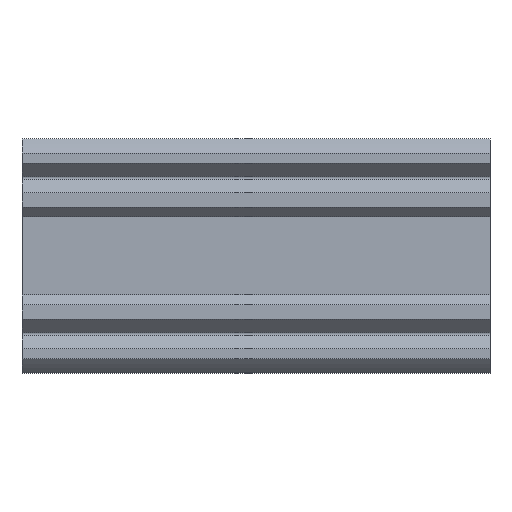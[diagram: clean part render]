
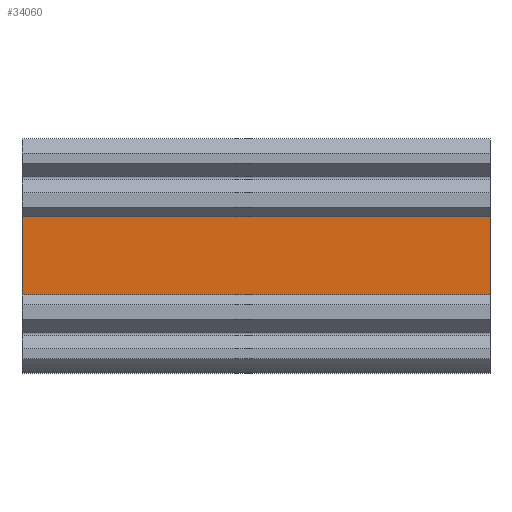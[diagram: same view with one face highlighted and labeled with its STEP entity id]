
A CAD part, left-side view. The second image highlights one B-rep face of the part: STEP entity #34060.
In plain terms, the highlighted planar face has unit normal (-1, 0, 0).
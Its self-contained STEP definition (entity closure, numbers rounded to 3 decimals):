
#191 = VERTEX_POINT ( 'NONE', #2122 ) ;
#879 = EDGE_CURVE ( 'NONE', #9173, #17117, #39132, .T. ) ;
#2122 = CARTESIAN_POINT ( 'NONE',  ( -8., 48., -5.525 ) ) ;
#2867 = VERTEX_POINT ( 'NONE', #31861 ) ;
#4511 = FACE_OUTER_BOUND ( 'NONE', #12009, .T. ) ;
#5166 = DIRECTION ( 'NONE',  ( 0., 0., -1. ) ) ;
#5730 = CARTESIAN_POINT ( 'NONE',  ( -8., 0., 5.525 ) ) ;
#6334 = EDGE_CURVE ( 'NONE', #9173, #2867, #12225, .T. ) ;
#6359 = ORIENTED_EDGE ( 'NONE', *, *, #46871, .T. ) ;
#7218 = ORIENTED_EDGE ( 'NONE', *, *, #9488, .F. ) ;
#8449 = CARTESIAN_POINT ( 'NONE',  ( -8., 0., 5.525 ) ) ;
#9173 = VERTEX_POINT ( 'NONE', #45496 ) ;
#9488 = EDGE_CURVE ( 'NONE', #17117, #191, #37302, .T. ) ;
#12009 = EDGE_LOOP ( 'NONE', ( #6359, #7218, #37573, #45430 ) ) ;
#12225 = LINE ( 'NONE', #5730, #23338 ) ;
#12926 = PLANE ( 'NONE',  #19682 ) ;
#13775 = VECTOR ( 'NONE', #16955, 1000. ) ;
#16955 = DIRECTION ( 'NONE',  ( 0., 0., -1. ) ) ;
#17117 = VERTEX_POINT ( 'NONE', #22734 ) ;
#17785 = DIRECTION ( 'NONE',  ( 0., 1., 0. ) ) ;
#19682 = AXIS2_PLACEMENT_3D ( 'NONE', #8449, #28264, #5166 ) ;
#22734 = CARTESIAN_POINT ( 'NONE',  ( -8., 0., -5.525 ) ) ;
#23338 = VECTOR ( 'NONE', #17785, 1000. ) ;
#23633 = VECTOR ( 'NONE', #28093, 1000. ) ;
#24102 = CARTESIAN_POINT ( 'NONE',  ( -8., 0., -5.525 ) ) ;
#25027 = DIRECTION ( 'NONE',  ( 0., 0., -1. ) ) ;
#28093 = DIRECTION ( 'NONE',  ( 0., 1., 0. ) ) ;
#28264 = DIRECTION ( 'NONE',  ( 1., 0., 0. ) ) ;
#28605 = VECTOR ( 'NONE', #25027, 1000. ) ;
#31861 = CARTESIAN_POINT ( 'NONE',  ( -8., 48., 5.525 ) ) ;
#34060 = ADVANCED_FACE ( 'NONE', ( #4511 ), #12926, .F. ) ;
#35961 = LINE ( 'NONE', #51006, #13775 ) ;
#36593 = CARTESIAN_POINT ( 'NONE',  ( -8., 0., 5.525 ) ) ;
#37302 = LINE ( 'NONE', #24102, #23633 ) ;
#37573 = ORIENTED_EDGE ( 'NONE', *, *, #879, .F. ) ;
#39132 = LINE ( 'NONE', #36593, #28605 ) ;
#45430 = ORIENTED_EDGE ( 'NONE', *, *, #6334, .T. ) ;
#45496 = CARTESIAN_POINT ( 'NONE',  ( -8., 0., 5.525 ) ) ;
#46871 = EDGE_CURVE ( 'NONE', #2867, #191, #35961, .T. ) ;
#51006 = CARTESIAN_POINT ( 'NONE',  ( -8., 48., 5.525 ) ) ;
